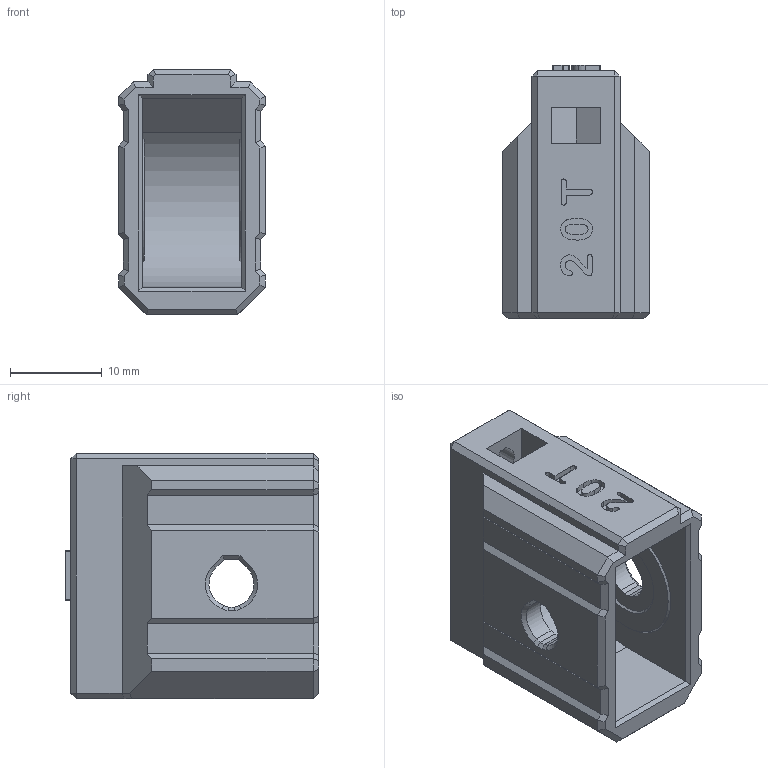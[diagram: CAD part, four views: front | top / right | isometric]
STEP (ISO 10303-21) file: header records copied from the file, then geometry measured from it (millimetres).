
FILE_DESCRIPTION(/* description */ (''),/* implementation_level */ '2;1');
FILE_NAME(/* name */ 'E:/Mihai/3D Printing/My Designs/Pit Stop/Adapted Revised X-Axis/step/X-Idler-Tensioner (20T ID_5) 3.01c v5.step',/* time_stamp */ '2021-01-10T18:49:20+02:00',/* author */ (''),/* organization */ (''),/* preprocessor_version */ 'ST-DEVELOPER v18.1',/* originating_system */ 'Autodesk Translation Framework v9.7.1.1290',/* authorisation */ '');
FILE_SCHEMA (('AUTOMOTIVE_DESIGN { 1 0 10303 214 3 1 1 }'));
Length unit declared in the file: millimetre
Products named in the file (1): X-Idler-Tensioner (20T ID_5) 3.01c
Bounding box: 16 x 27.6 x 26.8 mm (x, y, z)
Volume: 5482.7 mm3; surface area: 4181.5 mm2
Topology: 1 solids, 1 shells, 252 faces, 634 edges, 400 vertices
Faces by surface type: plane 174, bspline 61, cylinder 9, cone 8
Entity records: 9194 total; most frequent: CARTESIAN_POINT 3536, ORIENTED_EDGE 1268, DIRECTION 922, EDGE_CURVE 634, LINE 478, VECTOR 478, VERTEX_POINT 400, EDGE_LOOP 276
